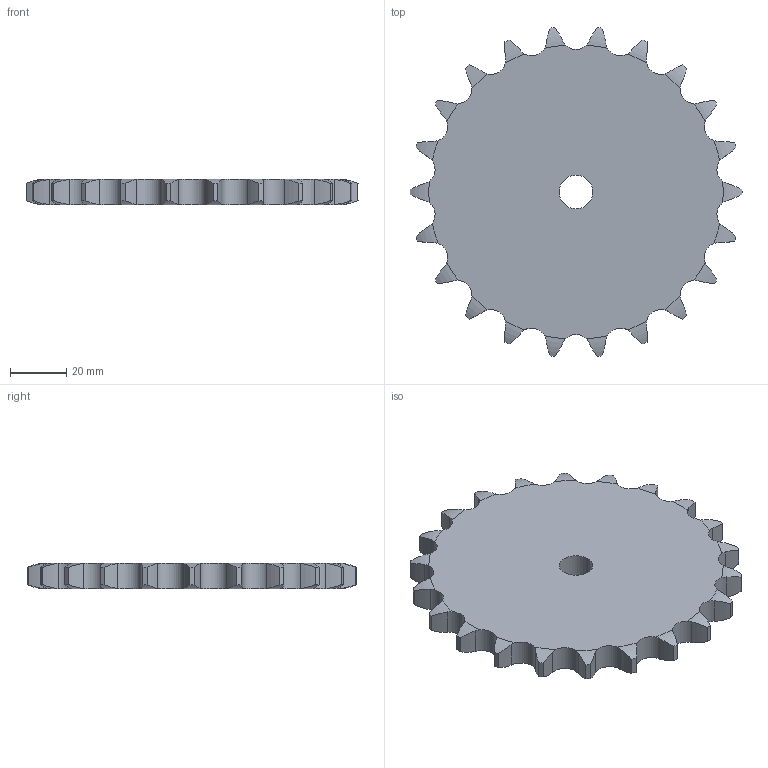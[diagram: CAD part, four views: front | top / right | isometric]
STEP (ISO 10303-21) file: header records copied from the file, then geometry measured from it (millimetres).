
FILE_DESCRIPTION((''),'2;1');
FILE_NAME('500-301-0022_PRT','2021-02-12T',('Brieden'),('Brieden'),'PRO/ENGINEER BY PARAMETRIC TECHNOLOGY CORPORATION, 2010160','PRO/ENGINEER BY PARAMETRIC TECHNOLOGY CORPORATION, 2010160','');
FILE_SCHEMA(('AUTOMOTIVE_DESIGN { 1 0 10303 214 1 1 1 1 }'));
Length unit declared in the file: millimetre
Products named in the file (1): 500-301-0022_PRT
Bounding box: 118 x 117.03 x 9.1 mm (x, y, z)
Volume: 81296.9 mm3; surface area: 22872.3 mm2
Topology: 1 solids, 1 shells, 136 faces, 402 edges, 268 vertices
Faces by surface type: cylinder 90, torus 44, plane 2
Entity records: 6576 total; most frequent: CARTESIAN_POINT 1875, ORIENTED_EDGE 804, DIRECTION 634, PRESENTATION_STYLE_ASSIGNMENT 403, STYLED_ITEM 403, CURVE_STYLE 402, EDGE_CURVE 402, AXIS2_PLACEMENT_3D 272
